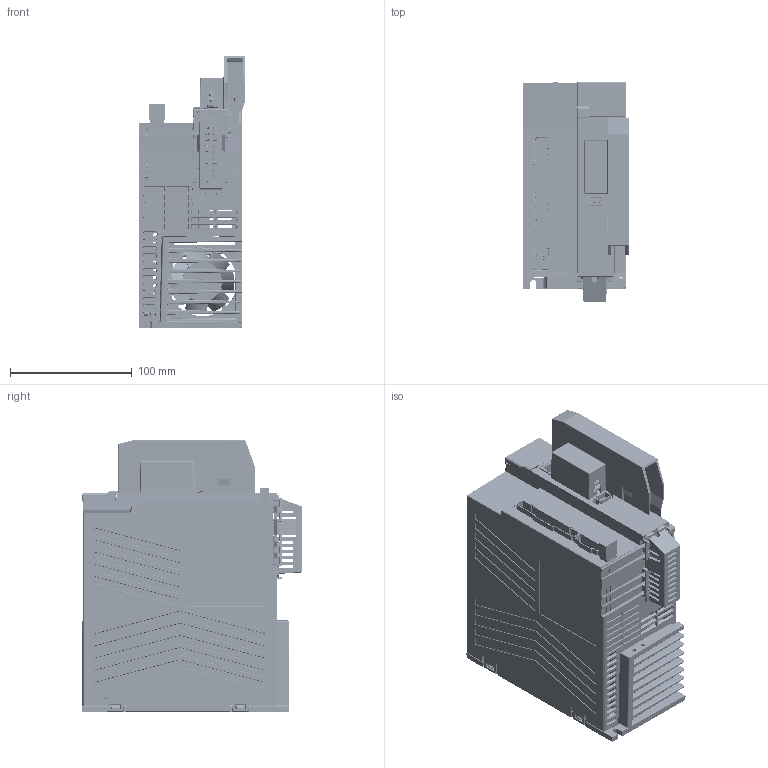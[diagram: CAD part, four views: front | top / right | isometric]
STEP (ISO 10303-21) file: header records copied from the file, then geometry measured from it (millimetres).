
FILE_DESCRIPTION((''),'2;1');
FILE_NAME('ASM0001_ASM','2022-05-06T',('Cyclone_Aero15X'),(''),'PRO/ENGINEER BY PARAMETRIC TECHNOLOGY CORPORATION, 2010280','PRO/ENGINEER BY PARAMETRIC TECHNOLOGY CORPORATION, 2010280','');
FILE_SCHEMA(('CONFIG_CONTROL_DESIGN'));
Products named in the file (81): PRT0004; PRT0005; PRT0006; MANIFOLD_SOLID_BREP_29012; MANIFOLD_SOLID_BREP_29303; _ASM0004; ASM0004_ASM; PRT0007; PRT0008; PRT0009; PRT0010; PRT0011; PRT0012; ASM0005_ASM; PRT0013; PRT0014; PRT0015; PRT0016; ASM0006_ASM; PRT0017; NGSS-400W-DISPLAY_6; PRT0018; ASM0007_ASM; ASM0003_ASM; PRT0019; PRT0020; PRT0021; PRT0023; PRT0024; PRT0026; PRT0027; ASM0009_ASM; M3_6_CROSS_3IN1_8; ASM0008_ASM; PRT0047; PRT0048; PRT0049; MANIFOLD_SOLID_BREP_191246; MANIFOLD_SOLID_BREP_191334; MANIFOLD_SOLID_BREP_191422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
Assembly tree (104 placements, depth 5):
  ASM0001_ASM
    ASM0002_ASM
      ASM0003_ASM
        PRT0004
        PRT0005
        PRT0006
        ASM0004_ASM
          MANIFOLD_SOLID_BREP_29012
          MANIFOLD_SOLID_BREP_29303
          _ASM0004
        PRT0007
        PRT0008
        PRT0009  x4
        ASM0005_ASM
          PRT0010
          PRT0011  x5
          PRT0012  x5
        ASM0006_ASM
          PRT0013
          PRT0014
          PRT0015  x4
          PRT0016
        ASM0007_ASM
          PRT0017
          NGSS-400W-DISPLAY_6
          PRT0018  x4
      ASM0008_ASM
        PRT0019
        PRT0020
        PRT0021
        PRT0023
        PRT0024
        ASM0009_ASM
          PRT0026
          PRT0027
        M3_6_CROSS_3IN1_8  x4
      PRT0047
      ASM0012_ASM
        PRT0048
        PRT0049
        ASM0013_ASM
          MANIFOLD_SOLID_BREP_191246
          MANIFOLD_SOLID_BREP_191334
          MANIFOLD_SOLID_BREP_191422
          MANIFOLD_SOLID_BREP_191510
          MANIFOLD_SOLID_BREP_191598
          MANIFOLD_SOLID_BREP_191686
          MANIFOLD_SOLID_BREP_191774
          MANIFOLD_SOLID_BREP_191862
          MANIFOLD_SOLID_BREP_191950
          MANIFOLD_SOLID_BREP_192038
          MANIFOLD_SOLID_BREP_192126
          MANIFOLD_SOLID_BREP_192214
          MANIFOLD_SOLID_BREP_192302
          MANIFOLD_SOLID_BREP_192390
          MANIFOLD_SOLID_BREP_192478
          MANIFOLD_SOLID_BREP_192566
          MANIFOLD_SOLID_BREP_192654
          MANIFOLD_SOLID_BREP_192742
          MANIFOLD_SOLID_BREP_192830
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Bounding box: 88 x 180.5 x 224.01 mm (x, y, z)
Volume: 546366.2 mm3; surface area: 459094.5 mm2
Topology: 92 solids, 105 shells, 8128 faces, 21535 edges, 13821 vertices
Faces by surface type: plane 4750, cylinder 2152, bspline 681, cone 288, torus 181, sphere 76
Entity records: 270836 total; most frequent: CARTESIAN_POINT 88700, ORIENTED_EDGE 38843, DIRECTION 35132, EDGE_CURVE 19557, VECTOR 12746, LINE 12746, VERTEX_POINT 12592, AXIS2_PLACEMENT_3D 11193
